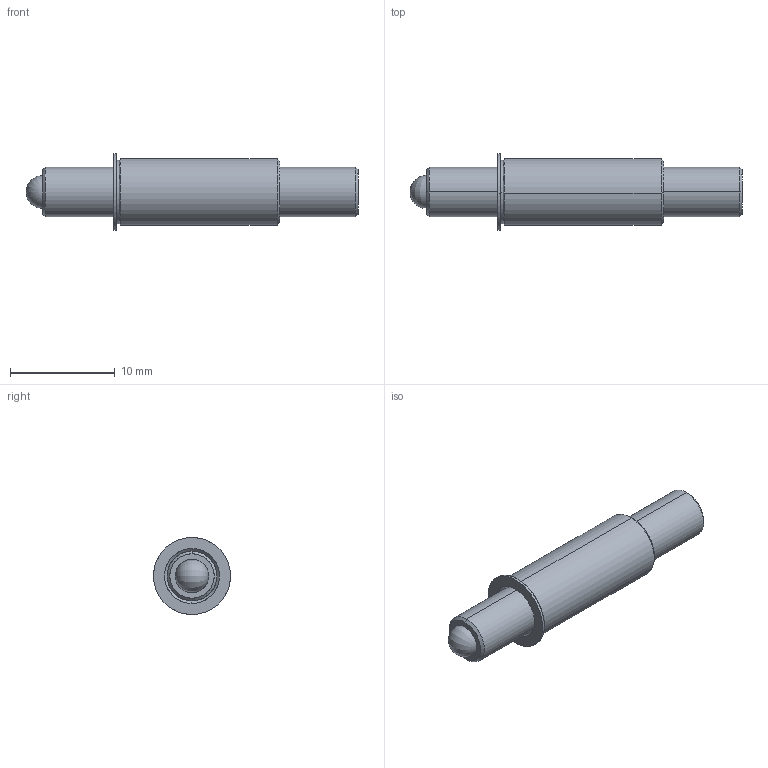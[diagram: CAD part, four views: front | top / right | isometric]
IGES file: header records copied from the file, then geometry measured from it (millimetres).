
Start section: SolidWorks IGES file using analytic representation for surfaces
Global section: file name: C:\Users\workpc\Desktop\KMA Solidworks\TSB187-100-1250_625.IGS; native system: SolidWorks 2013; preprocessor: SolidWorks 2013; author: workpc; date: 130313.092729; units: inch
Bounding box: 31.75 x 7.36 x 7.36 mm (x, y, z)
Surface area: 1117.7 mm2 (no closed solid volume)
Topology: 0 solids, 0 shells, 35 faces, 414 edges, 410 vertices
Faces by surface type: revolution 24, bspline 11
